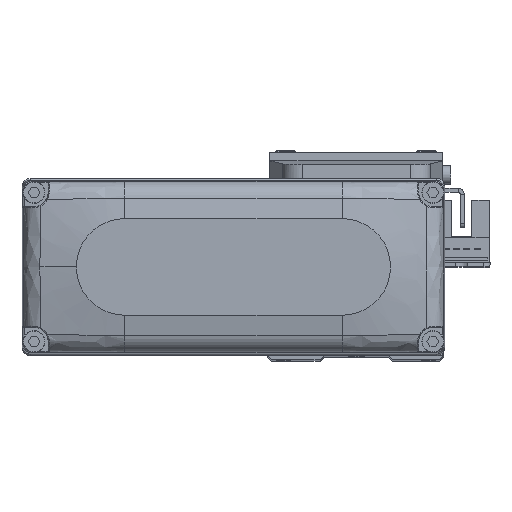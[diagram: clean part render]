
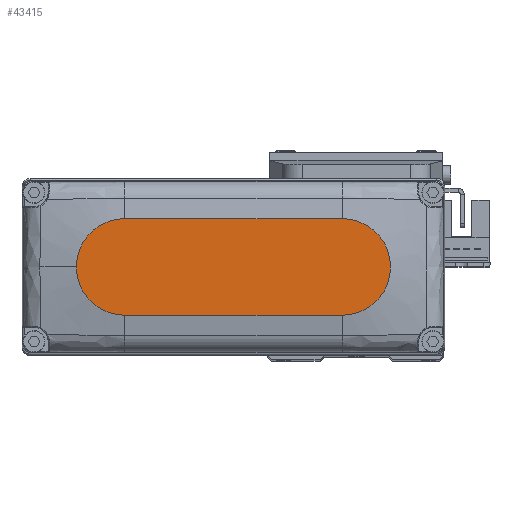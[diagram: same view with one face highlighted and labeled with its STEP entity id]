
A CAD part, top view. The second image highlights one B-rep face of the part: STEP entity #43415.
In plain terms, the highlighted planar face has unit normal (0, 0, 1).
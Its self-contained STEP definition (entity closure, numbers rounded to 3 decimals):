
#655 = AXIS2_PLACEMENT_3D ( 'NONE', #69732, #15976, #39892 ) ;
#3057 = VERTEX_POINT ( 'NONE', #71783 ) ;
#11965 = CARTESIAN_POINT ( 'NONE',  ( 27., 12., 25. ) ) ;
#11976 = ORIENTED_EDGE ( 'NONE', *, *, #71982, .T. ) ;
#13630 = DIRECTION ( 'NONE',  ( 0., 0., 1. ) ) ;
#14900 = ORIENTED_EDGE ( 'NONE', *, *, #19179, .T. ) ;
#15555 = CARTESIAN_POINT ( 'NONE',  ( -27., 0., 25. ) ) ;
#15976 = DIRECTION ( 'NONE',  ( 0., 0., 1. ) ) ;
#16167 = DIRECTION ( 'NONE',  ( -1., 0., 0. ) ) ;
#19179 = EDGE_CURVE ( 'NONE', #21569, #3057, #73860, .T. ) ;
#19797 = VECTOR ( 'NONE', #43980, 1000. ) ;
#20076 = CARTESIAN_POINT ( 'NONE',  ( -27., -12., 25. ) ) ;
#21569 = VERTEX_POINT ( 'NONE', #72556 ) ;
#22582 = AXIS2_PLACEMENT_3D ( 'NONE', #28475, #52383, #76360 ) ;
#27755 = FACE_OUTER_BOUND ( 'NONE', #30606, .T. ) ;
#28475 = CARTESIAN_POINT ( 'NONE',  ( 27., 0., 25. ) ) ;
#30606 = EDGE_LOOP ( 'NONE', ( #11976, #14900, #66580, #47326, #45430 ) ) ;
#33822 = VERTEX_POINT ( 'NONE', #77142 ) ;
#37554 = DIRECTION ( 'NONE',  ( 1., 0., 0. ) ) ;
#39473 = DIRECTION ( 'NONE',  ( 0., 0., 1. ) ) ;
#39892 = DIRECTION ( 'NONE',  ( 1., 0., 0. ) ) ;
#39976 = AXIS2_PLACEMENT_3D ( 'NONE', #15555, #39473, #63430 ) ;
#43415 = ADVANCED_FACE ( 'NONE', ( #27755 ), #45749, .T. ) ;
#43980 = DIRECTION ( 'NONE',  ( 1., 0., 0. ) ) ;
#44006 = CARTESIAN_POINT ( 'NONE',  ( 27., -12., 25. ) ) ;
#45074 = AXIS2_PLACEMENT_3D ( 'NONE', #67374, #13630, #37554 ) ;
#45430 = ORIENTED_EDGE ( 'NONE', *, *, #47734, .T. ) ;
#45749 = PLANE ( 'NONE',  #655 ) ;
#45953 = EDGE_CURVE ( 'NONE', #3057, #48376, #73839, .T. ) ;
#45956 = LINE ( 'NONE', #69927, #58140 ) ;
#47326 = ORIENTED_EDGE ( 'NONE', *, *, #47454, .T. ) ;
#47454 = EDGE_CURVE ( 'NONE', #48376, #33822, #68921, .T. ) ;
#47734 = EDGE_CURVE ( 'NONE', #33822, #55211, #56415, .T. ) ;
#48376 = VERTEX_POINT ( 'NONE', #44006 ) ;
#52383 = DIRECTION ( 'NONE',  ( 0., 0., 1. ) ) ;
#55211 = VERTEX_POINT ( 'NONE', #11965 ) ;
#56415 = CIRCLE ( 'NONE', #22582, 12. ) ;
#58140 = VECTOR ( 'NONE', #16167, 1000. ) ;
#63430 = DIRECTION ( 'NONE',  ( 1., 0., 0. ) ) ;
#66580 = ORIENTED_EDGE ( 'NONE', *, *, #45953, .T. ) ;
#67374 = CARTESIAN_POINT ( 'NONE',  ( 27., 0., 25. ) ) ;
#68921 = CIRCLE ( 'NONE', #45074, 12. ) ;
#69732 = CARTESIAN_POINT ( 'NONE',  ( 0., 0., 25. ) ) ;
#69927 = CARTESIAN_POINT ( 'NONE',  ( -27., 12., 25. ) ) ;
#71783 = CARTESIAN_POINT ( 'NONE',  ( -27., -12., 25. ) ) ;
#71982 = EDGE_CURVE ( 'NONE', #55211, #21569, #45956, .T. ) ;
#72556 = CARTESIAN_POINT ( 'NONE',  ( -27., 12., 25. ) ) ;
#73839 = LINE ( 'NONE', #20076, #19797 ) ;
#73860 = CIRCLE ( 'NONE', #39976, 12. ) ;
#76360 = DIRECTION ( 'NONE',  ( 1., 0., 0. ) ) ;
#77142 = CARTESIAN_POINT ( 'NONE',  ( 39., 0., 25. ) ) ;
